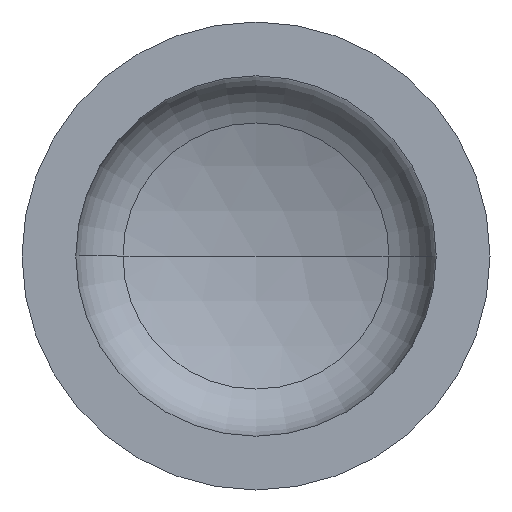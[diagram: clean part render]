
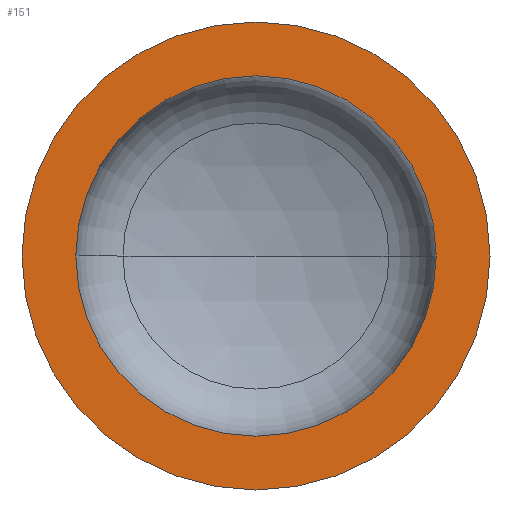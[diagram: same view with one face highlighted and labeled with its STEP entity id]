
A CAD part, front view. The second image highlights one B-rep face of the part: STEP entity #151.
In plain terms, the highlighted planar face has unit normal (0, -1, 0).
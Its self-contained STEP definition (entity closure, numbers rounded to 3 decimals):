
#31 = AXIS2_PLACEMENT_3D ( 'NONE', #152, #330, #141 ) ;
#46 = AXIS2_PLACEMENT_3D ( 'NONE', #171, #238, #404 ) ;
#54 = AXIS2_PLACEMENT_3D ( 'NONE', #274, #271, #206 ) ;
#58 = AXIS2_PLACEMENT_3D ( 'NONE', #297, #295, #294 ) ;
#59 = VERTEX_POINT ( 'NONE', #303 ) ;
#60 = AXIS2_PLACEMENT_3D ( 'NONE', #356, #358, #291 ) ;
#70 = ORIENTED_EDGE ( 'NONE', *, *, #287, .T. ) ;
#84 = EDGE_CURVE ( 'NONE', #137, #302, #408, .T. ) ;
#87 = EDGE_CURVE ( 'NONE', #375, #59, #217, .T. ) ;
#90 = EDGE_CURVE ( 'NONE', #59, #375, #273, .T. ) ;
#94 = EDGE_LOOP ( 'NONE', ( #126, #365 ) ) ;
#95 = ORIENTED_EDGE ( 'NONE', *, *, #84, .T. ) ;
#116 = FACE_OUTER_BOUND ( 'NONE', #299, .T. ) ;
#126 = ORIENTED_EDGE ( 'NONE', *, *, #87, .F. ) ;
#137 = VERTEX_POINT ( 'NONE', #187 ) ;
#141 = DIRECTION ( 'NONE',  ( 1., 0., 0. ) ) ;
#151 = ADVANCED_FACE ( 'NONE', ( #398, #116 ), #387, .F. ) ;
#152 = CARTESIAN_POINT ( 'NONE',  ( 0., 0., 0. ) ) ;
#171 = CARTESIAN_POINT ( 'NONE',  ( -400., 0., 0. ) ) ;
#187 = CARTESIAN_POINT ( 'NONE',  ( -400., 0., 0. ) ) ;
#206 = DIRECTION ( 'NONE',  ( 1., 0., 0. ) ) ;
#211 = CARTESIAN_POINT ( 'NONE',  ( 400., 0., 0. ) ) ;
#217 = CIRCLE ( 'NONE', #58, 308. ) ;
#238 = DIRECTION ( 'NONE',  ( 0., 1., 0. ) ) ;
#271 = DIRECTION ( 'NONE',  ( 0., -1., 0. ) ) ;
#273 = CIRCLE ( 'NONE', #54, 308. ) ;
#274 = CARTESIAN_POINT ( 'NONE',  ( 0., 0., 0. ) ) ;
#287 = EDGE_CURVE ( 'NONE', #302, #137, #316, .T. ) ;
#291 = DIRECTION ( 'NONE',  ( 1., 0., 0. ) ) ;
#294 = DIRECTION ( 'NONE',  ( 1., 0., 0. ) ) ;
#295 = DIRECTION ( 'NONE',  ( 0., -1., 0. ) ) ;
#297 = CARTESIAN_POINT ( 'NONE',  ( 0., 0., 0. ) ) ;
#299 = EDGE_LOOP ( 'NONE', ( #70, #95 ) ) ;
#302 = VERTEX_POINT ( 'NONE', #211 ) ;
#303 = CARTESIAN_POINT ( 'NONE',  ( -308., 0., 0. ) ) ;
#314 = CARTESIAN_POINT ( 'NONE',  ( 308., 0., 0. ) ) ;
#316 = CIRCLE ( 'NONE', #31, 400. ) ;
#330 = DIRECTION ( 'NONE',  ( 0., -1., 0. ) ) ;
#356 = CARTESIAN_POINT ( 'NONE',  ( 0., 0., 0. ) ) ;
#358 = DIRECTION ( 'NONE',  ( 0., -1., 0. ) ) ;
#365 = ORIENTED_EDGE ( 'NONE', *, *, #90, .F. ) ;
#375 = VERTEX_POINT ( 'NONE', #314 ) ;
#387 = PLANE ( 'NONE',  #46 ) ;
#398 = FACE_BOUND ( 'NONE', #94, .T. ) ;
#404 = DIRECTION ( 'NONE',  ( -1., 0., 0. ) ) ;
#408 = CIRCLE ( 'NONE', #60, 400. ) ;
